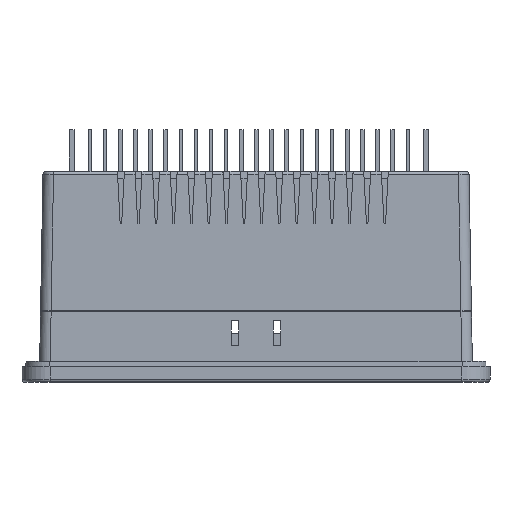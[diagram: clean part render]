
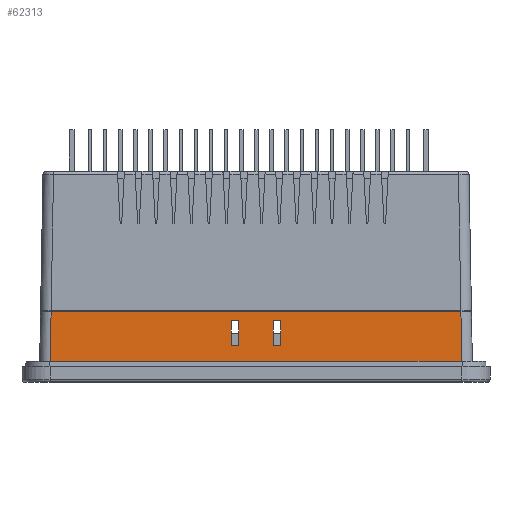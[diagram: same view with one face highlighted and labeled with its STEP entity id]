
A CAD part, left-side view. The second image highlights one B-rep face of the part: STEP entity #62313.
In plain terms, the highlighted planar face has unit normal (-1, 0, 0.018).
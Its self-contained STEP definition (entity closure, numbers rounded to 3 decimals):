
#92 = ORIENTED_EDGE ( 'NONE', *, *, #145381, .F. ) ;
#2231 = CARTESIAN_POINT ( 'NONE',  ( -118.467, 136.091, -42.5 ) ) ;
#8653 = CARTESIAN_POINT ( 'NONE',  ( -118.694, 16.143, -55.5 ) ) ;
#9892 = CARTESIAN_POINT ( 'NONE',  ( -118.694, 69.691, -55.5 ) ) ;
#10853 = CARTESIAN_POINT ( 'NONE',  ( -118.424, 136.091, -40. ) ) ;
#11448 = ORIENTED_EDGE ( 'NONE', *, *, #20326, .F. ) ;
#13857 = EDGE_CURVE ( 'NONE', #90359, #84751, #102029, .T. ) ;
#14363 = EDGE_CURVE ( 'NONE', #148920, #118057, #130063, .T. ) ;
#15802 = CARTESIAN_POINT ( 'NONE',  ( -118.59, 79.491, -49.5 ) ) ;
#16208 = DIRECTION ( 'NONE',  ( 0., -1., 0. ) ) ;
#17135 = CARTESIAN_POINT ( 'NONE',  ( -118.695, 133.092, -55.552 ) ) ;
#18089 = VECTOR ( 'NONE', #41648, 1000. ) ;
#18198 = VECTOR ( 'NONE', #58488, 1000. ) ;
#19074 = EDGE_LOOP ( 'NONE', ( #92, #11448, #104595, #89164 ) ) ;
#20326 = EDGE_CURVE ( 'NONE', #69712, #128506, #107180, .T. ) ;
#22697 = CARTESIAN_POINT ( 'NONE',  ( -118.694, 67.591, -55.5 ) ) ;
#22819 = ORIENTED_EDGE ( 'NONE', *, *, #53808, .F. ) ;
#27357 = CARTESIAN_POINT ( 'NONE',  ( -118.59, 81.591, -49.5 ) ) ;
#27865 = CARTESIAN_POINT ( 'NONE',  ( -118.694, 16.091, -55.487 ) ) ;
#27905 = VECTOR ( 'NONE', #150990, 1000. ) ;
#29560 = VECTOR ( 'NONE', #118408, 1000. ) ;
#34413 = VECTOR ( 'NONE', #83382, 1000. ) ;
#35876 = EDGE_CURVE ( 'NONE', #90359, #65671, #122078, .T. ) ;
#37710 = LINE ( 'NONE', #73675, #137922 ) ;
#40107 = EDGE_CURVE ( 'NONE', #118057, #114404, #92411, .T. ) ;
#40561 = ORIENTED_EDGE ( 'NONE', *, *, #14363, .F. ) ;
#40720 = FACE_BOUND ( 'NONE', #19074, .T. ) ;
#41647 = CARTESIAN_POINT ( 'NONE',  ( -118.694, 16.126, -55.5 ) ) ;
#41648 = DIRECTION ( 'NONE',  ( -0.017, 0.017, -1. ) ) ;
#42535 = CARTESIAN_POINT ( 'NONE',  ( -118.467, 79.491, -42.5 ) ) ;
#43186 = DIRECTION ( 'NONE',  ( 0.017, 0.017, 1. ) ) ;
#43639 = LINE ( 'NONE', #9892, #75928 ) ;
#48456 = DIRECTION ( 'NONE',  ( 0., 1., 0. ) ) ;
#50707 = EDGE_LOOP ( 'NONE', ( #22819, #51595, #94827, #40561 ) ) ;
#50935 = ORIENTED_EDGE ( 'NONE', *, *, #89428, .T. ) ;
#51595 = ORIENTED_EDGE ( 'NONE', *, *, #65718, .F. ) ;
#53808 = EDGE_CURVE ( 'NONE', #84472, #148920, #43639, .T. ) ;
#53860 = EDGE_CURVE ( 'NONE', #54925, #69712, #127854, .T. ) ;
#54925 = VERTEX_POINT ( 'NONE', #15802 ) ;
#55247 = PLANE ( 'NONE',  #112964 ) ;
#58238 = DIRECTION ( 'NONE',  ( 0., 1., 0. ) ) ;
#58310 = CARTESIAN_POINT ( 'NONE',  ( -118.59, 69.691, -49.5 ) ) ;
#58488 = DIRECTION ( 'NONE',  ( -0.017, 0., -1. ) ) ;
#60216 = ORIENTED_EDGE ( 'NONE', *, *, #105144, .T. ) ;
#62313 = ADVANCED_FACE ( 'NONE', ( #40720, #78988, #124156 ), #55247, .T. ) ;
#62771 = CARTESIAN_POINT ( 'NONE',  ( -118.59, 67.591, -49.5 ) ) ;
#64642 = CARTESIAN_POINT ( 'NONE',  ( -118.694, 16.108, -55.496 ) ) ;
#65671 = VERTEX_POINT ( 'NONE', #148813 ) ;
#65718 = EDGE_CURVE ( 'NONE', #114404, #84472, #83668, .T. ) ;
#67927 = VECTOR ( 'NONE', #43186, 1000. ) ;
#69712 = VERTEX_POINT ( 'NONE', #42535 ) ;
#70699 = CARTESIAN_POINT ( 'NONE',  ( -118.694, 81.591, -55.5 ) ) ;
#71866 = DIRECTION ( 'NONE',  ( 0., -1., 0. ) ) ;
#73675 = CARTESIAN_POINT ( 'NONE',  ( -118.694, 136.117, -55.5 ) ) ;
#75928 = VECTOR ( 'NONE', #103364, 1000. ) ;
#78384 = CARTESIAN_POINT ( 'NONE',  ( -118.694, 16.091, -55.487 ) ) ;
#78988 = FACE_BOUND ( 'NONE', #50707, .T. ) ;
#79275 = CARTESIAN_POINT ( 'NONE',  ( -118.467, 81.591, -42.5 ) ) ;
#80293 = ORIENTED_EDGE ( 'NONE', *, *, #13857, .F. ) ;
#82364 = VECTOR ( 'NONE', #90027, 1000. ) ;
#82880 = EDGE_LOOP ( 'NONE', ( #121864, #60216, #50935, #80293, #125701 ) ) ;
#83382 = DIRECTION ( 'NONE',  ( 0.017, 0., 1. ) ) ;
#83668 = LINE ( 'NONE', #142610, #118509 ) ;
#84472 = VERTEX_POINT ( 'NONE', #146051 ) ;
#84751 = VERTEX_POINT ( 'NONE', #117296 ) ;
#87748 = LINE ( 'NONE', #124488, #82364 ) ;
#89164 = ORIENTED_EDGE ( 'NONE', *, *, #136280, .F. ) ;
#89428 = EDGE_CURVE ( 'NONE', #143297, #84751, #90656, .T. ) ;
#90027 = DIRECTION ( 'NONE',  ( 0., -1., 0. ) ) ;
#90165 = VERTEX_POINT ( 'NONE', #27357 ) ;
#90359 = VERTEX_POINT ( 'NONE', #134536 ) ;
#90656 = LINE ( 'NONE', #112128, #67927 ) ;
#92411 = LINE ( 'NONE', #22697, #29560 ) ;
#92595 = CARTESIAN_POINT ( 'NONE',  ( -118.59, 136.091, -49.5 ) ) ;
#94127 = CARTESIAN_POINT ( 'NONE',  ( -118.694, 79.491, -55.5 ) ) ;
#94827 = ORIENTED_EDGE ( 'NONE', *, *, #40107, .F. ) ;
#101946 = CARTESIAN_POINT ( 'NONE',  ( -118.694, 136.091, -55.5 ) ) ;
#102029 = LINE ( 'NONE', #10853, #27905 ) ;
#103364 = DIRECTION ( 'NONE',  ( -0.017, 0., -1. ) ) ;
#104595 = ORIENTED_EDGE ( 'NONE', *, *, #53860, .F. ) ;
#105144 = EDGE_CURVE ( 'NONE', #112377, #143297, #110173, .T. ) ;
#107180 = LINE ( 'NONE', #2231, #129019 ) ;
#110173 =( BOUNDED_CURVE ( )  B_SPLINE_CURVE ( 3, ( #8653, #41647, #64642, #78384 ),
 .UNSPECIFIED., .F., .F. ) 
 B_SPLINE_CURVE_WITH_KNOTS ( ( 4, 4 ),
 ( 3.142, 3.16 ),
 .UNSPECIFIED. ) 
 CURVE ( )  GEOMETRIC_REPRESENTATION_ITEM ( )  RATIONAL_B_SPLINE_CURVE ( ( 1., 1., 1., 1. ) ) 
 REPRESENTATION_ITEM ( '' )  );
#112128 = CARTESIAN_POINT ( 'NONE',  ( -118.658, 16.127, -53.407 ) ) ;
#112377 = VERTEX_POINT ( 'NONE', #132057 ) ;
#112964 = AXIS2_PLACEMENT_3D ( 'NONE', #101946, #135654, #148636 ) ;
#114404 = VERTEX_POINT ( 'NONE', #130564 ) ;
#115918 = LINE ( 'NONE', #70699, #18198 ) ;
#117296 = CARTESIAN_POINT ( 'NONE',  ( -118.424, 16.361, -40. ) ) ;
#118057 = VERTEX_POINT ( 'NONE', #62771 ) ;
#118408 = DIRECTION ( 'NONE',  ( 0.017, 0., 1. ) ) ;
#118509 = VECTOR ( 'NONE', #48456, 1000. ) ;
#120956 = VECTOR ( 'NONE', #71866, 1000. ) ;
#121864 = ORIENTED_EDGE ( 'NONE', *, *, #144614, .T. ) ;
#122078 = LINE ( 'NONE', #17135, #18089 ) ;
#124156 = FACE_OUTER_BOUND ( 'NONE', #82880, .T. ) ;
#124488 = CARTESIAN_POINT ( 'NONE',  ( -118.59, 136.091, -49.5 ) ) ;
#125701 = ORIENTED_EDGE ( 'NONE', *, *, #35876, .T. ) ;
#127854 = LINE ( 'NONE', #94127, #34413 ) ;
#128506 = VERTEX_POINT ( 'NONE', #79275 ) ;
#129019 = VECTOR ( 'NONE', #58238, 1000. ) ;
#130063 = LINE ( 'NONE', #92595, #120956 ) ;
#130564 = CARTESIAN_POINT ( 'NONE',  ( -118.467, 67.591, -42.5 ) ) ;
#132057 = CARTESIAN_POINT ( 'NONE',  ( -118.694, 16.143, -55.5 ) ) ;
#134536 = CARTESIAN_POINT ( 'NONE',  ( -118.424, 132.821, -40. ) ) ;
#135654 = DIRECTION ( 'NONE',  ( -1., 0., 0.017 ) ) ;
#136280 = EDGE_CURVE ( 'NONE', #90165, #54925, #87748, .T. ) ;
#137922 = VECTOR ( 'NONE', #16208, 1000. ) ;
#142610 = CARTESIAN_POINT ( 'NONE',  ( -118.467, 136.091, -42.5 ) ) ;
#143297 = VERTEX_POINT ( 'NONE', #27865 ) ;
#144614 = EDGE_CURVE ( 'NONE', #65671, #112377, #37710, .T. ) ;
#145381 = EDGE_CURVE ( 'NONE', #128506, #90165, #115918, .T. ) ;
#146051 = CARTESIAN_POINT ( 'NONE',  ( -118.467, 69.691, -42.5 ) ) ;
#148636 = DIRECTION ( 'NONE',  ( 0.017, 0., 1. ) ) ;
#148813 = CARTESIAN_POINT ( 'NONE',  ( -118.694, 133.091, -55.5 ) ) ;
#148920 = VERTEX_POINT ( 'NONE', #58310 ) ;
#150990 = DIRECTION ( 'NONE',  ( 0., -1., 0. ) ) ;
